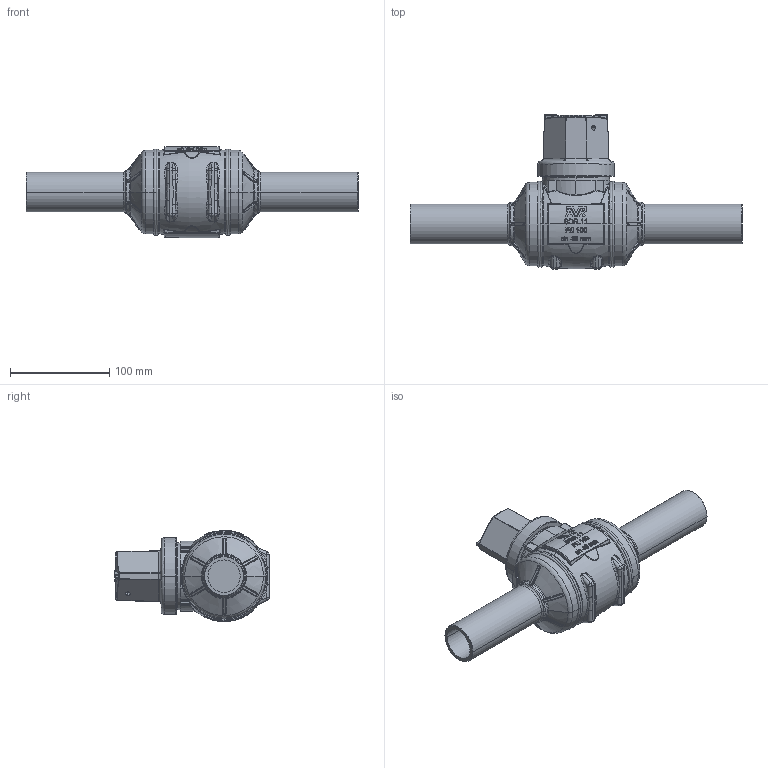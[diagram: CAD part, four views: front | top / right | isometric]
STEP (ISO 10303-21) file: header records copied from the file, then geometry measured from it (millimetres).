
FILE_DESCRIPTION (( 'STEP AP203' ), '1' );
FILE_NAME ('SOLID CERTUS PE BALL VALVE OD40-DN25 SDR11 DSL.STEP', '2021-01-11T14:52:06', ( '' ), ( '' ), 'SwSTEP 2.0', 'SolidWorks 2020', '' );
FILE_SCHEMA (( 'CONFIG_CONTROL_DESIGN' ));
Length unit declared in the file: millimetre
Products named in the file (1): SOLID CERTUS PE BALL VALVE OD40-DN25 SDR11 DSL
Bounding box: 334.22 x 155.24 x 91.86 mm (x, y, z)
Volume: 1100571.6 mm3; surface area: 93934.7 mm2
Topology: 1 solids, 15 shells, 1653 faces, 4071 edges, 2387 vertices
Faces by surface type: bspline 713, cylinder 344, plane 326, torus 144, sphere 67, cone 59
Entity records: 89369 total; most frequent: CARTESIAN_POINT 56456, ORIENTED_EDGE 7944, DIRECTION 5307, EDGE_CURVE 3972, VERTEX_POINT 2387, AXIS2_PLACEMENT_3D 2210, B_SPLINE_CURVE_WITH_KNOTS 1737, EDGE_LOOP 1695
